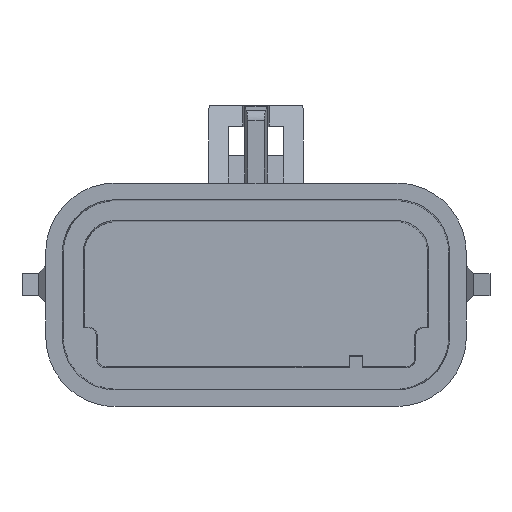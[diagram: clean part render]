
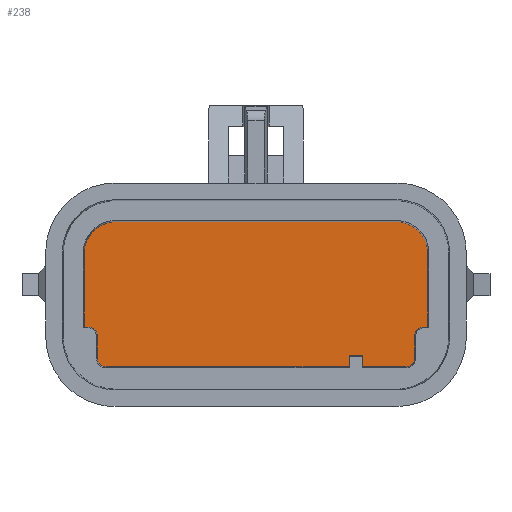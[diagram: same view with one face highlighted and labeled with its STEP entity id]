
A CAD part, top view. The second image highlights one B-rep face of the part: STEP entity #238.
In plain terms, the highlighted planar face has unit normal (0, 0, 1).
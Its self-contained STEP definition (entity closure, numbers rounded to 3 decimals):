
#238=ADVANCED_FACE('',(#474),#358,.F.);
#358=PLANE('',#2858);
#474=FACE_OUTER_BOUND('',#605,.T.);
#605=EDGE_LOOP('',(#977,#978,#979,#980,#981,#982,#983,#984,#985,#986,#987,
#988,#989,#990,#991,#992,#993,#994));
#699=ELLIPSE('',#2810,2.9,2.9);
#701=ELLIPSE('',#2815,0.8,0.8);
#703=ELLIPSE('',#2819,0.8,0.8);
#711=ELLIPSE('',#2855,2.9,2.9);
#712=ELLIPSE('',#2856,0.8,0.8);
#713=ELLIPSE('',#2857,0.8,0.8);
#977=ORIENTED_EDGE('',*,*,#1938,.T.);
#978=ORIENTED_EDGE('',*,*,#1939,.T.);
#979=ORIENTED_EDGE('',*,*,#1940,.T.);
#980=ORIENTED_EDGE('',*,*,#1941,.T.);
#981=ORIENTED_EDGE('',*,*,#1942,.F.);
#982=ORIENTED_EDGE('',*,*,#1943,.F.);
#983=ORIENTED_EDGE('',*,*,#1944,.F.);
#984=ORIENTED_EDGE('',*,*,#1945,.F.);
#985=ORIENTED_EDGE('',*,*,#1880,.T.);
#986=ORIENTED_EDGE('',*,*,#1877,.T.);
#987=ORIENTED_EDGE('',*,*,#1874,.F.);
#988=ORIENTED_EDGE('',*,*,#1870,.T.);
#989=ORIENTED_EDGE('',*,*,#1866,.T.);
#990=ORIENTED_EDGE('',*,*,#1863,.T.);
#991=ORIENTED_EDGE('',*,*,#1860,.T.);
#992=ORIENTED_EDGE('',*,*,#1857,.T.);
#993=ORIENTED_EDGE('',*,*,#1854,.T.);
#994=ORIENTED_EDGE('',*,*,#1851,.T.);
#1577=VERTEX_POINT('',#3848);
#1578=VERTEX_POINT('',#3850);
#1580=VERTEX_POINT('',#3856);
#1582=VERTEX_POINT('',#3862);
#1584=VERTEX_POINT('',#3868);
#1586=VERTEX_POINT('',#3874);
#1588=VERTEX_POINT('',#3880);
#1591=VERTEX_POINT('',#3888);
#1592=VERTEX_POINT('',#3892);
#1595=VERTEX_POINT('',#3899);
#1596=VERTEX_POINT('',#3904);
#1638=VERTEX_POINT('',#4054);
#1639=VERTEX_POINT('',#4056);
#1640=VERTEX_POINT('',#4058);
#1641=VERTEX_POINT('',#4060);
#1642=VERTEX_POINT('',#4062);
#1643=VERTEX_POINT('',#4064);
#1644=VERTEX_POINT('',#4066);
#1851=EDGE_CURVE('',#1578,#1577,#699,.T.);
#1854=EDGE_CURVE('',#1580,#1578,#2232,.T.);
#1857=EDGE_CURVE('',#1582,#1580,#2235,.T.);
#1860=EDGE_CURVE('',#1584,#1582,#701,.T.);
#1863=EDGE_CURVE('',#1586,#1584,#2239,.T.);
#1866=EDGE_CURVE('',#1588,#1586,#703,.T.);
#1870=EDGE_CURVE('',#1591,#1588,#2244,.T.);
#1874=EDGE_CURVE('',#1591,#1592,#2248,.T.);
#1877=EDGE_CURVE('',#1595,#1592,#2251,.T.);
#1880=EDGE_CURVE('',#1596,#1595,#2254,.T.);
#1938=EDGE_CURVE('',#1577,#1638,#2291,.T.);
#1939=EDGE_CURVE('',#1638,#1639,#711,.T.);
#1940=EDGE_CURVE('',#1639,#1640,#2292,.T.);
#1941=EDGE_CURVE('',#1640,#1641,#2293,.T.);
#1942=EDGE_CURVE('',#1642,#1641,#712,.T.);
#1943=EDGE_CURVE('',#1643,#1642,#2294,.T.);
#1944=EDGE_CURVE('',#1644,#1643,#713,.T.);
#1945=EDGE_CURVE('',#1596,#1644,#2295,.T.);
#2232=LINE('',#3855,#2539);
#2235=LINE('',#3861,#2542);
#2239=LINE('',#3873,#2546);
#2244=LINE('',#3887,#2551);
#2248=LINE('',#3895,#2555);
#2251=LINE('',#3901,#2558);
#2254=LINE('',#3907,#2561);
#2291=LINE('',#4053,#2598);
#2292=LINE('',#4057,#2599);
#2293=LINE('',#4059,#2600);
#2294=LINE('',#4063,#2601);
#2295=LINE('',#4067,#2602);
#2539=VECTOR('',#3118,1.);
#2542=VECTOR('',#3123,1.);
#2546=VECTOR('',#3135,1.);
#2551=VECTOR('',#3148,1.);
#2555=VECTOR('',#3154,1.);
#2558=VECTOR('',#3159,1.);
#2561=VECTOR('',#3164,1.);
#2598=VECTOR('',#3261,1.);
#2599=VECTOR('',#3264,1.);
#2600=VECTOR('',#3265,1.);
#2601=VECTOR('',#3268,1.);
#2602=VECTOR('',#3271,1.);
#2810=AXIS2_PLACEMENT_3D('',#3849,#3111,#3112);
#2815=AXIS2_PLACEMENT_3D('',#3867,#3128,#3129);
#2819=AXIS2_PLACEMENT_3D('',#3879,#3140,#3141);
#2855=AXIS2_PLACEMENT_3D('',#4055,#3262,#3263);
#2856=AXIS2_PLACEMENT_3D('',#4061,#3266,#3267);
#2857=AXIS2_PLACEMENT_3D('',#4065,#3269,#3270);
#2858=AXIS2_PLACEMENT_3D('',#4068,#3272,#3273);
#3111=DIRECTION('',(0.,0.,1.));
#3112=DIRECTION('',(0.707,0.707,0.));
#3118=DIRECTION('',(0.,1.,0.));
#3123=DIRECTION('',(1.,0.,0.));
#3128=DIRECTION('',(0.,0.,-1.));
#3129=DIRECTION('',(-0.707,0.707,0.));
#3135=DIRECTION('',(0.,1.,0.));
#3140=DIRECTION('',(0.,0.,1.));
#3141=DIRECTION('',(0.707,-0.707,0.));
#3148=DIRECTION('',(1.,0.,0.));
#3154=DIRECTION('',(0.,1.,0.));
#3159=DIRECTION('',(1.,0.,0.));
#3164=DIRECTION('',(0.,1.,0.));
#3261=DIRECTION('',(-1.,0.,0.));
#3262=DIRECTION('',(0.,0.,1.));
#3263=DIRECTION('',(0.707,-0.707,0.));
#3264=DIRECTION('',(0.,-1.,0.));
#3265=DIRECTION('',(1.,0.,0.));
#3266=DIRECTION('',(0.,0.,1.));
#3267=DIRECTION('',(-0.707,-0.707,0.));
#3268=DIRECTION('',(0.,1.,0.));
#3269=DIRECTION('',(0.,0.,-1.));
#3270=DIRECTION('',(0.707,0.707,0.));
#3271=DIRECTION('',(-1.,0.,0.));
#3272=DIRECTION('',(0.,0.,-1.));
#3273=DIRECTION('',(0.,-1.,0.));
#3848=CARTESIAN_POINT('',(12.6,6.55,-8.666));
#3849=CARTESIAN_POINT('',(12.6,3.65,-8.666));
#3850=CARTESIAN_POINT('',(15.5,3.65,-8.666));
#3855=CARTESIAN_POINT('',(15.5,6.55,-8.666));
#3856=CARTESIAN_POINT('',(15.5,-2.95,-8.666));
#3861=CARTESIAN_POINT('',(0.,-2.95,-8.666));
#3862=CARTESIAN_POINT('',(15.1,-2.95,-8.666));
#3867=CARTESIAN_POINT('',(15.1,-3.75,-8.666));
#3868=CARTESIAN_POINT('',(14.3,-3.75,-8.666));
#3873=CARTESIAN_POINT('',(14.3,-2.95,-8.666));
#3874=CARTESIAN_POINT('',(14.3,-5.75,-8.666));
#3879=CARTESIAN_POINT('',(13.5,-5.75,-8.666));
#3880=CARTESIAN_POINT('',(13.5,-6.55,-8.666));
#3887=CARTESIAN_POINT('',(0.,-6.55,-8.666));
#3888=CARTESIAN_POINT('',(9.6,-6.55,-8.666));
#3892=CARTESIAN_POINT('',(9.6,-5.55,-8.666));
#3895=CARTESIAN_POINT('',(9.6,-6.55,-8.666));
#3899=CARTESIAN_POINT('',(8.4,-5.55,-8.666));
#3901=CARTESIAN_POINT('',(0.,-5.55,-8.666));
#3904=CARTESIAN_POINT('',(8.4,-6.55,-8.666));
#3907=CARTESIAN_POINT('',(8.4,-6.55,-8.666));
#4053=CARTESIAN_POINT('',(0.,6.55,-8.666));
#4054=CARTESIAN_POINT('',(-12.6,6.55,-8.666));
#4055=CARTESIAN_POINT('',(-12.6,3.65,-8.666));
#4056=CARTESIAN_POINT('',(-15.5,3.65,-8.666));
#4057=CARTESIAN_POINT('',(-15.5,6.55,-8.666));
#4058=CARTESIAN_POINT('',(-15.5,-2.95,-8.666));
#4059=CARTESIAN_POINT('',(0.,-2.95,-8.666));
#4060=CARTESIAN_POINT('',(-15.1,-2.95,-8.666));
#4061=CARTESIAN_POINT('',(-15.1,-3.75,-8.666));
#4062=CARTESIAN_POINT('',(-14.3,-3.75,-8.666));
#4063=CARTESIAN_POINT('',(-14.3,6.55,-8.666));
#4064=CARTESIAN_POINT('',(-14.3,-5.75,-8.666));
#4065=CARTESIAN_POINT('',(-13.5,-5.75,-8.666));
#4066=CARTESIAN_POINT('',(-13.5,-6.55,-8.666));
#4067=CARTESIAN_POINT('',(-2.589,-6.55,-8.666));
#4068=CARTESIAN_POINT('',(0.,6.55,-8.666));
